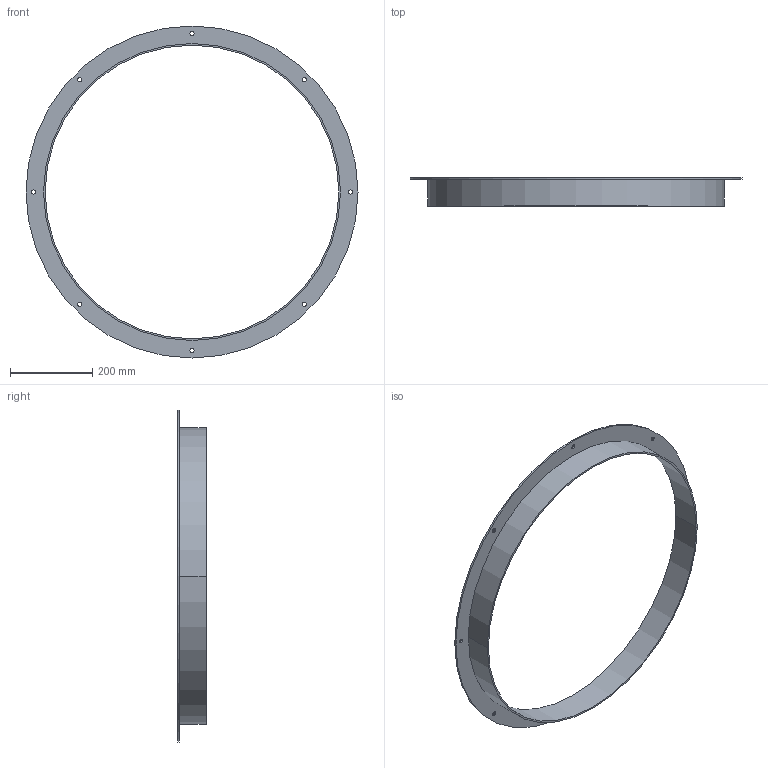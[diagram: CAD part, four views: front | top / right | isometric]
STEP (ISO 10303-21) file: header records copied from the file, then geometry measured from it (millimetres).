
FILE_DESCRIPTION(('STEP AP214'),'1');
FILE_NAME('accessory_5136845400.stp','2017-10-09T07:15:57',('TraceParts'),('TraceParts S.A.'),'Spatial InterOp 3D',' ',' ');
FILE_SCHEMA(('automotive_design'));
Length unit declared in the file: millimetre
Products named in the file (1): accessory_5136845400
Bounding box: 806 x 69 x 806 mm (x, y, z)
Volume: 1026945.8 mm3; surface area: 533566.5 mm2
Topology: 1 solids, 1 shells, 25 faces, 66 edges, 44 vertices
Faces by surface type: cylinder 22, plane 3
Entity records: 1056 total; most frequent: DIRECTION 162, CARTESIAN_POINT 136, ORIENTED_EDGE 132, AXIS2_PLACEMENT_3D 70, EDGE_CURVE 66, EDGE_LOOP 44, VERTEX_POINT 44, CIRCLE 44
